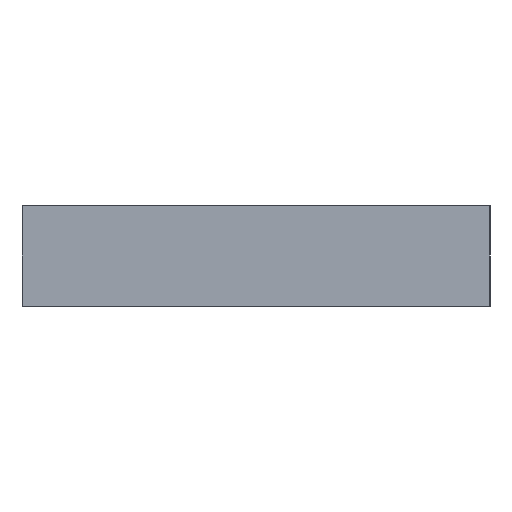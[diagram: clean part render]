
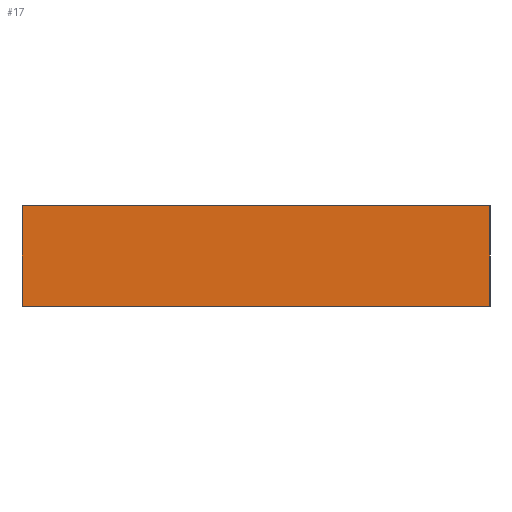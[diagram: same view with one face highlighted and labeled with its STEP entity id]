
A CAD part, left-side view. The second image highlights one B-rep face of the part: STEP entity #17.
In plain terms, the highlighted planar face has unit normal (-1, 0, 0).
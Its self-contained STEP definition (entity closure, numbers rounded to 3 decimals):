
#17 = ADVANCED_FACE('',(#18),#32,.F.);
#18 = FACE_BOUND('',#19,.F.);
#19 = EDGE_LOOP('',(#20,#55,#83,#111));
#20 = ORIENTED_EDGE('',*,*,#21,.F.);
#21 = EDGE_CURVE('',#22,#24,#26,.T.);
#22 = VERTEX_POINT('',#23);
#23 = CARTESIAN_POINT('',(0.,0.,0.));
#24 = VERTEX_POINT('',#25);
#25 = CARTESIAN_POINT('',(0.,0.,6.));
#26 = SURFACE_CURVE('',#27,(#31,#43),.PCURVE_S1.);
#27 = LINE('',#28,#29);
#28 = CARTESIAN_POINT('',(0.,0.,0.));
#29 = VECTOR('',#30,1.);
#30 = DIRECTION('',(0.,0.,1.));
#31 = PCURVE('',#32,#37);
#32 = PLANE('',#33);
#33 = AXIS2_PLACEMENT_3D('',#34,#35,#36);
#34 = CARTESIAN_POINT('',(0.,0.,0.));
#35 = DIRECTION('',(1.,0.,0.));
#36 = DIRECTION('',(0.,0.,1.));
#37 = DEFINITIONAL_REPRESENTATION('',(#38),#42);
#38 = LINE('',#39,#40);
#39 = CARTESIAN_POINT('',(0.,0.));
#40 = VECTOR('',#41,1.);
#41 = DIRECTION('',(1.,0.));
#42 = ( GEOMETRIC_REPRESENTATION_CONTEXT(2) 
PARAMETRIC_REPRESENTATION_CONTEXT() REPRESENTATION_CONTEXT('2D SPACE',''
  ) );
#43 = PCURVE('',#44,#49);
#44 = PLANE('',#45);
#45 = AXIS2_PLACEMENT_3D('',#46,#47,#48);
#46 = CARTESIAN_POINT('',(0.,0.,0.));
#47 = DIRECTION('',(0.,1.,0.));
#48 = DIRECTION('',(0.,0.,1.));
#49 = DEFINITIONAL_REPRESENTATION('',(#50),#54);
#50 = LINE('',#51,#52);
#51 = CARTESIAN_POINT('',(0.,0.));
#52 = VECTOR('',#53,1.);
#53 = DIRECTION('',(1.,0.));
#54 = ( GEOMETRIC_REPRESENTATION_CONTEXT(2) 
PARAMETRIC_REPRESENTATION_CONTEXT() REPRESENTATION_CONTEXT('2D SPACE',''
  ) );
#55 = ORIENTED_EDGE('',*,*,#56,.T.);
#56 = EDGE_CURVE('',#22,#57,#59,.T.);
#57 = VERTEX_POINT('',#58);
#58 = CARTESIAN_POINT('',(0.,28.,0.));
#59 = SURFACE_CURVE('',#60,(#64,#71),.PCURVE_S1.);
#60 = LINE('',#61,#62);
#61 = CARTESIAN_POINT('',(0.,0.,0.));
#62 = VECTOR('',#63,1.);
#63 = DIRECTION('',(0.,1.,0.));
#64 = PCURVE('',#32,#65);
#65 = DEFINITIONAL_REPRESENTATION('',(#66),#70);
#66 = LINE('',#67,#68);
#67 = CARTESIAN_POINT('',(0.,0.));
#68 = VECTOR('',#69,1.);
#69 = DIRECTION('',(0.,-1.));
#70 = ( GEOMETRIC_REPRESENTATION_CONTEXT(2) 
PARAMETRIC_REPRESENTATION_CONTEXT() REPRESENTATION_CONTEXT('2D SPACE',''
  ) );
#71 = PCURVE('',#72,#77);
#72 = PLANE('',#73);
#73 = AXIS2_PLACEMENT_3D('',#74,#75,#76);
#74 = CARTESIAN_POINT('',(0.,0.,0.));
#75 = DIRECTION('',(0.,0.,1.));
#76 = DIRECTION('',(1.,0.,0.));
#77 = DEFINITIONAL_REPRESENTATION('',(#78),#82);
#78 = LINE('',#79,#80);
#79 = CARTESIAN_POINT('',(0.,0.));
#80 = VECTOR('',#81,1.);
#81 = DIRECTION('',(0.,1.));
#82 = ( GEOMETRIC_REPRESENTATION_CONTEXT(2) 
PARAMETRIC_REPRESENTATION_CONTEXT() REPRESENTATION_CONTEXT('2D SPACE',''
  ) );
#83 = ORIENTED_EDGE('',*,*,#84,.T.);
#84 = EDGE_CURVE('',#57,#85,#87,.T.);
#85 = VERTEX_POINT('',#86);
#86 = CARTESIAN_POINT('',(0.,28.,6.));
#87 = SURFACE_CURVE('',#88,(#92,#99),.PCURVE_S1.);
#88 = LINE('',#89,#90);
#89 = CARTESIAN_POINT('',(0.,28.,0.));
#90 = VECTOR('',#91,1.);
#91 = DIRECTION('',(0.,0.,1.));
#92 = PCURVE('',#32,#93);
#93 = DEFINITIONAL_REPRESENTATION('',(#94),#98);
#94 = LINE('',#95,#96);
#95 = CARTESIAN_POINT('',(0.,-28.));
#96 = VECTOR('',#97,1.);
#97 = DIRECTION('',(1.,0.));
#98 = ( GEOMETRIC_REPRESENTATION_CONTEXT(2) 
PARAMETRIC_REPRESENTATION_CONTEXT() REPRESENTATION_CONTEXT('2D SPACE',''
  ) );
#99 = PCURVE('',#100,#105);
#100 = PLANE('',#101);
#101 = AXIS2_PLACEMENT_3D('',#102,#103,#104);
#102 = CARTESIAN_POINT('',(0.,28.,0.));
#103 = DIRECTION('',(0.,1.,0.));
#104 = DIRECTION('',(0.,0.,1.));
#105 = DEFINITIONAL_REPRESENTATION('',(#106),#110);
#106 = LINE('',#107,#108);
#107 = CARTESIAN_POINT('',(0.,0.));
#108 = VECTOR('',#109,1.);
#109 = DIRECTION('',(1.,0.));
#110 = ( GEOMETRIC_REPRESENTATION_CONTEXT(2) 
PARAMETRIC_REPRESENTATION_CONTEXT() REPRESENTATION_CONTEXT('2D SPACE',''
  ) );
#111 = ORIENTED_EDGE('',*,*,#112,.F.);
#112 = EDGE_CURVE('',#24,#85,#113,.T.);
#113 = SURFACE_CURVE('',#114,(#118,#125),.PCURVE_S1.);
#114 = LINE('',#115,#116);
#115 = CARTESIAN_POINT('',(0.,0.,6.));
#116 = VECTOR('',#117,1.);
#117 = DIRECTION('',(0.,1.,0.));
#118 = PCURVE('',#32,#119);
#119 = DEFINITIONAL_REPRESENTATION('',(#120),#124);
#120 = LINE('',#121,#122);
#121 = CARTESIAN_POINT('',(6.,0.));
#122 = VECTOR('',#123,1.);
#123 = DIRECTION('',(0.,-1.));
#124 = ( GEOMETRIC_REPRESENTATION_CONTEXT(2) 
PARAMETRIC_REPRESENTATION_CONTEXT() REPRESENTATION_CONTEXT('2D SPACE',''
  ) );
#125 = PCURVE('',#126,#131);
#126 = PLANE('',#127);
#127 = AXIS2_PLACEMENT_3D('',#128,#129,#130);
#128 = CARTESIAN_POINT('',(0.,0.,6.));
#129 = DIRECTION('',(0.,0.,1.));
#130 = DIRECTION('',(1.,0.,0.));
#131 = DEFINITIONAL_REPRESENTATION('',(#132),#136);
#132 = LINE('',#133,#134);
#133 = CARTESIAN_POINT('',(0.,0.));
#134 = VECTOR('',#135,1.);
#135 = DIRECTION('',(0.,1.));
#136 = ( GEOMETRIC_REPRESENTATION_CONTEXT(2) 
PARAMETRIC_REPRESENTATION_CONTEXT() REPRESENTATION_CONTEXT('2D SPACE',''
  ) );
